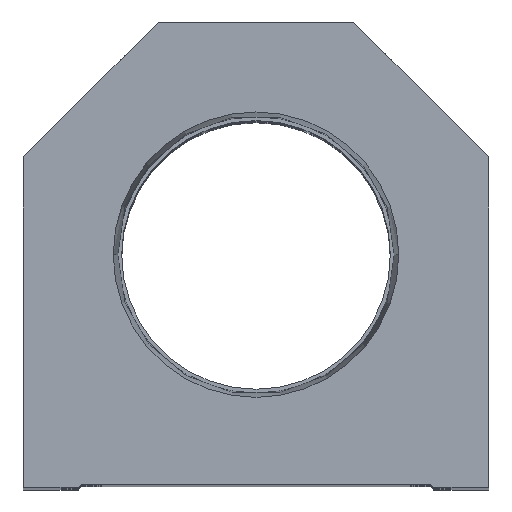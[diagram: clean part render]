
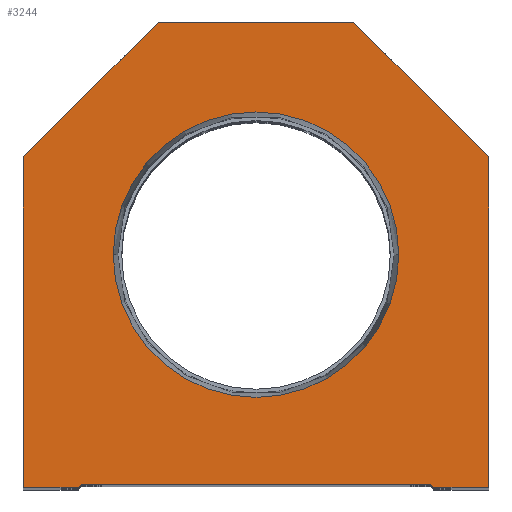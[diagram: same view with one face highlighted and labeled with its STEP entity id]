
A CAD part, top view. The second image highlights one B-rep face of the part: STEP entity #3244.
In plain terms, the highlighted planar face has unit normal (0, 0, 1).
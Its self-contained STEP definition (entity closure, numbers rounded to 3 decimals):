
#15 = EDGE_LOOP ( 'NONE', ( #2235, #14993 ) ) ;
#273 = VERTEX_POINT ( 'NONE', #3589 ) ;
#320 = LINE ( 'NONE', #432, #5954 ) ;
#355 = EDGE_CURVE ( 'NONE', #12660, #9129, #19906, .T. ) ;
#432 = CARTESIAN_POINT ( 'NONE',  ( -28.6, 0., 0. ) ) ;
#1175 = VECTOR ( 'NONE', #9282, 1000. ) ;
#1968 = EDGE_CURVE ( 'NONE', #273, #22459, #16247, .T. ) ;
#2059 = ORIENTED_EDGE ( 'NONE', *, *, #17272, .T. ) ;
#2163 = DIRECTION ( 'NONE',  ( 1., 0., 0. ) ) ;
#2231 = DIRECTION ( 'NONE',  ( 1., 0., 0. ) ) ;
#2235 = ORIENTED_EDGE ( 'NONE', *, *, #17494, .F. ) ;
#2240 = EDGE_CURVE ( 'NONE', #13057, #12660, #8098, .T. ) ;
#2530 = LINE ( 'NONE', #13615, #16664 ) ;
#2672 = ORIENTED_EDGE ( 'NONE', *, *, #22645, .T. ) ;
#2873 = AXIS2_PLACEMENT_3D ( 'NONE', #7646, #14762, #2163 ) ;
#3208 = CARTESIAN_POINT ( 'NONE',  ( 14.55, 14.55, 0. ) ) ;
#3244 = ADVANCED_FACE ( 'NONE', ( #10007, #7908 ), #17019, .T. ) ;
#3370 = VECTOR ( 'NONE', #11507, 1000. ) ;
#3589 = CARTESIAN_POINT ( 'NONE',  ( 16., 76.2, 0. ) ) ;
#3861 = ORIENTED_EDGE ( 'NONE', *, *, #17696, .T. ) ;
#4165 = ORIENTED_EDGE ( 'NONE', *, *, #4818, .T. ) ;
#4175 = CIRCLE ( 'NONE', #10925, 23.374 ) ;
#4608 = DIRECTION ( 'NONE',  ( 0., -1., 0. ) ) ;
#4818 = EDGE_CURVE ( 'NONE', #16382, #13057, #320, .T. ) ;
#4980 = CARTESIAN_POINT ( 'NONE',  ( -38.1, 54.1, 0. ) ) ;
#5438 = CARTESIAN_POINT ( 'NONE',  ( 38.1, 54.1, 0. ) ) ;
#5539 = LINE ( 'NONE', #5773, #18439 ) ;
#5651 = DIRECTION ( 'NONE',  ( 0., 1., 0. ) ) ;
#5773 = CARTESIAN_POINT ( 'NONE',  ( 38.1, 0., 0. ) ) ;
#5793 = DIRECTION ( 'NONE',  ( 1., 0., 0. ) ) ;
#5954 = VECTOR ( 'NONE', #5793, 1000. ) ;
#6244 = LINE ( 'NONE', #18843, #10255 ) ;
#6451 = CARTESIAN_POINT ( 'NONE',  ( -14.55, 14.55, 0. ) ) ;
#6643 = CARTESIAN_POINT ( 'NONE',  ( 23.374, 38.1, 0. ) ) ;
#6694 = DIRECTION ( 'NONE',  ( 0.707, -0.707, 0. ) ) ;
#6695 = VECTOR ( 'NONE', #9570, 1000. ) ;
#6881 = VECTOR ( 'NONE', #20076, 1000. ) ;
#7646 = CARTESIAN_POINT ( 'NONE',  ( 0., 38.1, 0. ) ) ;
#7871 = AXIS2_PLACEMENT_3D ( 'NONE', #18635, #22142, #20395 ) ;
#7908 = FACE_OUTER_BOUND ( 'NONE', #11067, .T. ) ;
#8098 = LINE ( 'NONE', #6451, #3370 ) ;
#8212 = ORIENTED_EDGE ( 'NONE', *, *, #355, .T. ) ;
#8930 = VERTEX_POINT ( 'NONE', #4980 ) ;
#9015 = CARTESIAN_POINT ( 'NONE',  ( 16., 76.2, 0. ) ) ;
#9129 = VERTEX_POINT ( 'NONE', #19747 ) ;
#9256 = CARTESIAN_POINT ( 'NONE',  ( -23.374, 38.1, 0. ) ) ;
#9282 = DIRECTION ( 'NONE',  ( 1., 0., 0. ) ) ;
#9499 = CARTESIAN_POINT ( 'NONE',  ( -16., 76.2, 0. ) ) ;
#9570 = DIRECTION ( 'NONE',  ( -1., 0., 0. ) ) ;
#10007 = FACE_BOUND ( 'NONE', #15, .T. ) ;
#10166 = VERTEX_POINT ( 'NONE', #12707 ) ;
#10241 = ORIENTED_EDGE ( 'NONE', *, *, #22884, .T. ) ;
#10255 = VECTOR ( 'NONE', #20130, 1000. ) ;
#10440 = LINE ( 'NONE', #3208, #19246 ) ;
#10733 = VERTEX_POINT ( 'NONE', #9256 ) ;
#10925 = AXIS2_PLACEMENT_3D ( 'NONE', #21942, #11135, #2231 ) ;
#11067 = EDGE_LOOP ( 'NONE', ( #4165, #13273, #8212, #20775, #10241, #20202, #3861, #17887, #2672, #2059 ) ) ;
#11135 = DIRECTION ( 'NONE',  ( 0., 0., 1. ) ) ;
#11242 = CARTESIAN_POINT ( 'NONE',  ( -38.1, 54.1, 0. ) ) ;
#11507 = DIRECTION ( 'NONE',  ( 0.707, 0.707, 0. ) ) ;
#11720 = EDGE_CURVE ( 'NONE', #10733, #21608, #4175, .T. ) ;
#12660 = VERTEX_POINT ( 'NONE', #14012 ) ;
#12707 = CARTESIAN_POINT ( 'NONE',  ( 38.1, 0., 0. ) ) ;
#13057 = VERTEX_POINT ( 'NONE', #19730 ) ;
#13197 = LINE ( 'NONE', #11242, #6881 ) ;
#13273 = ORIENTED_EDGE ( 'NONE', *, *, #2240, .T. ) ;
#13614 = VERTEX_POINT ( 'NONE', #20136 ) ;
#13615 = CARTESIAN_POINT ( 'NONE',  ( -38.1, 0., 0. ) ) ;
#13628 = CIRCLE ( 'NONE', #2873, 23.374 ) ;
#14012 = CARTESIAN_POINT ( 'NONE',  ( -28.6, 0.5, 0. ) ) ;
#14762 = DIRECTION ( 'NONE',  ( 0., 0., 1. ) ) ;
#14993 = ORIENTED_EDGE ( 'NONE', *, *, #11720, .F. ) ;
#16247 = LINE ( 'NONE', #9015, #6695 ) ;
#16382 = VERTEX_POINT ( 'NONE', #22911 ) ;
#16664 = VECTOR ( 'NONE', #4608, 1000. ) ;
#16688 = CARTESIAN_POINT ( 'NONE',  ( 38.1, 54.1, 0. ) ) ;
#16929 = EDGE_CURVE ( 'NONE', #9129, #13614, #10440, .T. ) ;
#17019 = PLANE ( 'NONE',  #7871 ) ;
#17272 = EDGE_CURVE ( 'NONE', #8930, #16382, #2530, .T. ) ;
#17494 = EDGE_CURVE ( 'NONE', #21608, #10733, #13628, .T. ) ;
#17696 = EDGE_CURVE ( 'NONE', #18960, #273, #19520, .T. ) ;
#17887 = ORIENTED_EDGE ( 'NONE', *, *, #1968, .T. ) ;
#18386 = CARTESIAN_POINT ( 'NONE',  ( -28.6, 0.5, 0. ) ) ;
#18439 = VECTOR ( 'NONE', #5651, 1000. ) ;
#18635 = CARTESIAN_POINT ( 'NONE',  ( 0., 0., 0. ) ) ;
#18843 = CARTESIAN_POINT ( 'NONE',  ( 28.6, 0., 0. ) ) ;
#18960 = VERTEX_POINT ( 'NONE', #5438 ) ;
#19213 = VECTOR ( 'NONE', #22036, 1000. ) ;
#19246 = VECTOR ( 'NONE', #6694, 1000. ) ;
#19520 = LINE ( 'NONE', #16688, #19213 ) ;
#19730 = CARTESIAN_POINT ( 'NONE',  ( -29.1, 0., 0. ) ) ;
#19747 = CARTESIAN_POINT ( 'NONE',  ( 28.6, 0.5, 0. ) ) ;
#19906 = LINE ( 'NONE', #18386, #1175 ) ;
#20076 = DIRECTION ( 'NONE',  ( -0.707, -0.707, 0. ) ) ;
#20130 = DIRECTION ( 'NONE',  ( 1., 0., 0. ) ) ;
#20136 = CARTESIAN_POINT ( 'NONE',  ( 29.1, 0., 0. ) ) ;
#20202 = ORIENTED_EDGE ( 'NONE', *, *, #22464, .T. ) ;
#20395 = DIRECTION ( 'NONE',  ( 1., 0., 0. ) ) ;
#20775 = ORIENTED_EDGE ( 'NONE', *, *, #16929, .T. ) ;
#21608 = VERTEX_POINT ( 'NONE', #6643 ) ;
#21942 = CARTESIAN_POINT ( 'NONE',  ( 0., 38.1, 0. ) ) ;
#22036 = DIRECTION ( 'NONE',  ( -0.707, 0.707, 0. ) ) ;
#22142 = DIRECTION ( 'NONE',  ( 0., 0., 1. ) ) ;
#22459 = VERTEX_POINT ( 'NONE', #9499 ) ;
#22464 = EDGE_CURVE ( 'NONE', #10166, #18960, #5539, .T. ) ;
#22645 = EDGE_CURVE ( 'NONE', #22459, #8930, #13197, .T. ) ;
#22884 = EDGE_CURVE ( 'NONE', #13614, #10166, #6244, .T. ) ;
#22911 = CARTESIAN_POINT ( 'NONE',  ( -38.1, 0., 0. ) ) ;
